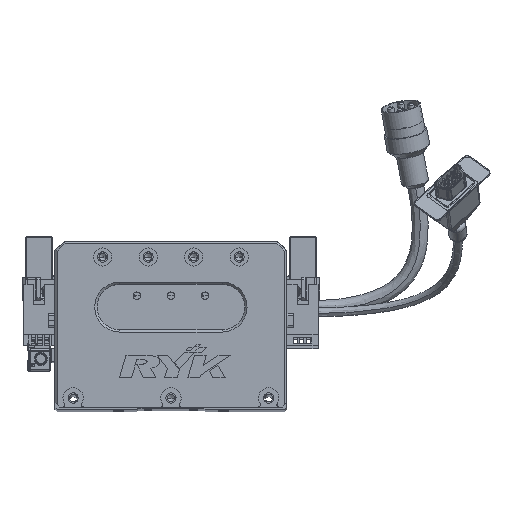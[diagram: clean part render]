
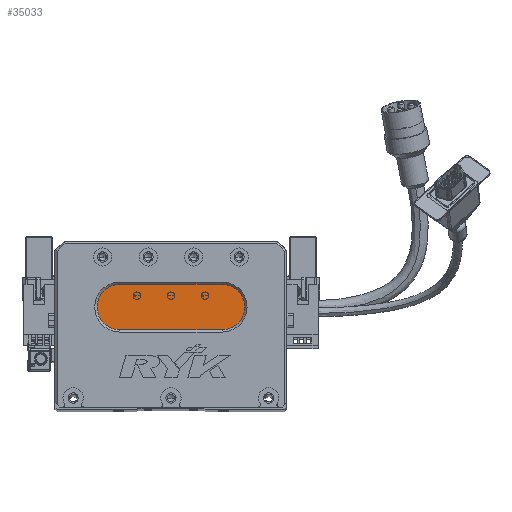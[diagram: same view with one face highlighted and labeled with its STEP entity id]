
A CAD part, top view. The second image highlights one B-rep face of the part: STEP entity #35033.
In plain terms, the highlighted planar face has unit normal (0, 0, 1) as drawn and (0, 0, -1) by its records, which use the part's own axes.
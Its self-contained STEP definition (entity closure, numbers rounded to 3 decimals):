
#1005 = EDGE_LOOP ( 'NONE', ( #56082, #6261, #30465, #59766, #35965 ) ) ;
#1365 = DIRECTION ( 'NONE',  ( -1., 0., 0. ) ) ;
#2787 = EDGE_CURVE ( 'NONE', #4931, #16882, #55607, .T. ) ;
#3570 = LINE ( 'NONE', #39392, #25165 ) ;
#3871 = DIRECTION ( 'NONE',  ( 1., 0., 0. ) ) ;
#4931 = VERTEX_POINT ( 'NONE', #10745 ) ;
#5371 = AXIS2_PLACEMENT_3D ( 'NONE', #12034, #32636, #37743 ) ;
#5727 = VERTEX_POINT ( 'NONE', #46639 ) ;
#6261 = ORIENTED_EDGE ( 'NONE', *, *, #36415, .T. ) ;
#6595 = DIRECTION ( 'NONE',  ( 0., 0., -1. ) ) ;
#10745 = CARTESIAN_POINT ( 'NONE',  ( 28.5, 34., 13. ) ) ;
#12034 = CARTESIAN_POINT ( 'NONE',  ( 73.5, 44., 13. ) ) ;
#16882 = VERTEX_POINT ( 'NONE', #49679 ) ;
#18814 = FACE_OUTER_BOUND ( 'NONE', #1005, .T. ) ;
#19968 = AXIS2_PLACEMENT_3D ( 'NONE', #62844, #57474, #1365 ) ;
#23182 = DIRECTION ( 'NONE',  ( -1., 0., 0. ) ) ;
#25165 = VECTOR ( 'NONE', #3871, 1000. ) ;
#26647 = PLANE ( 'NONE',  #19968 ) ;
#27127 = CARTESIAN_POINT ( 'NONE',  ( 28.5, 44., 13. ) ) ;
#28793 = DIRECTION ( 'NONE',  ( 0., 0., -1. ) ) ;
#29992 = CARTESIAN_POINT ( 'NONE',  ( 73.5, 54., 13. ) ) ;
#30465 = ORIENTED_EDGE ( 'NONE', *, *, #2787, .T. ) ;
#32570 = VERTEX_POINT ( 'NONE', #51876 ) ;
#32636 = DIRECTION ( 'NONE',  ( 0., 0., -1. ) ) ;
#35033 = ADVANCED_FACE ( 'NONE', ( #18814 ), #26647, .T. ) ;
#35965 = ORIENTED_EDGE ( 'NONE', *, *, #39581, .T. ) ;
#36415 = EDGE_CURVE ( 'NONE', #32570, #4931, #46290, .T. ) ;
#36977 = DIRECTION ( 'NONE',  ( -1., 0., 0. ) ) ;
#37743 = DIRECTION ( 'NONE',  ( -1., 0., 0. ) ) ;
#38123 = DIRECTION ( 'NONE',  ( -1., 0., 0. ) ) ;
#38283 = VECTOR ( 'NONE', #38123, 1000. ) ;
#38768 = CARTESIAN_POINT ( 'NONE',  ( 73.5, 34., 13. ) ) ;
#39392 = CARTESIAN_POINT ( 'NONE',  ( 73.5, 54., 13. ) ) ;
#39581 = EDGE_CURVE ( 'NONE', #5727, #61585, #3570, .T. ) ;
#44086 = EDGE_CURVE ( 'NONE', #61585, #32570, #57021, .T. ) ;
#45535 = AXIS2_PLACEMENT_3D ( 'NONE', #27127, #6595, #36977 ) ;
#46290 = LINE ( 'NONE', #38768, #38283 ) ;
#46639 = CARTESIAN_POINT ( 'NONE',  ( 28.5, 54., 13. ) ) ;
#49201 = EDGE_CURVE ( 'NONE', #16882, #5727, #52393, .T. ) ;
#49679 = CARTESIAN_POINT ( 'NONE',  ( 18.5, 44., 13. ) ) ;
#51876 = CARTESIAN_POINT ( 'NONE',  ( 73.5, 34., 13. ) ) ;
#52133 = AXIS2_PLACEMENT_3D ( 'NONE', #59368, #28793, #23182 ) ;
#52393 = CIRCLE ( 'NONE', #52133, 10. ) ;
#55607 = CIRCLE ( 'NONE', #45535, 10. ) ;
#56082 = ORIENTED_EDGE ( 'NONE', *, *, #44086, .T. ) ;
#57021 = CIRCLE ( 'NONE', #5371, 10. ) ;
#57474 = DIRECTION ( 'NONE',  ( 0., 0., -1. ) ) ;
#59368 = CARTESIAN_POINT ( 'NONE',  ( 28.5, 44., 13. ) ) ;
#59766 = ORIENTED_EDGE ( 'NONE', *, *, #49201, .T. ) ;
#61585 = VERTEX_POINT ( 'NONE', #29992 ) ;
#62844 = CARTESIAN_POINT ( 'NONE',  ( 73.5, 44., 13. ) ) ;
